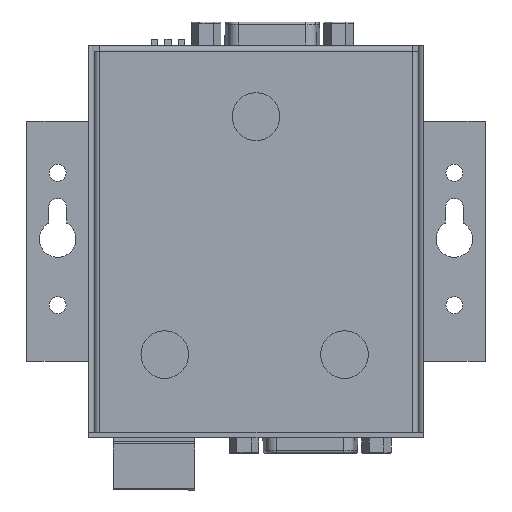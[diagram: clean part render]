
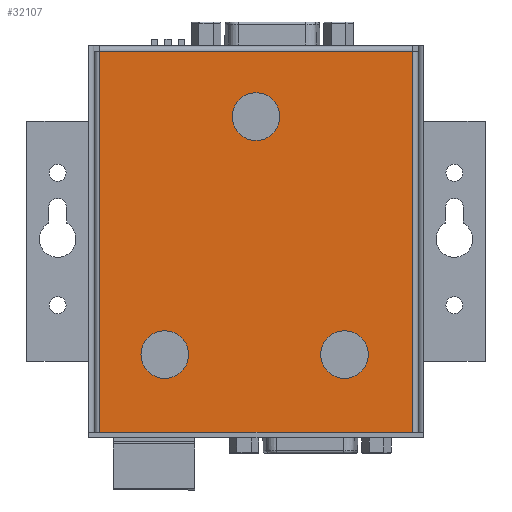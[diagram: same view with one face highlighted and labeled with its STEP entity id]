
A CAD part, front view. The second image highlights one B-rep face of the part: STEP entity #32107.
In plain terms, the highlighted planar face has unit normal (0, -1, 0).
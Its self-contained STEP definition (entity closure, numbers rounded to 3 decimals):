
#433=FACE_BOUND('',#5145,.T.);
#434=FACE_BOUND('',#5146,.T.);
#435=FACE_BOUND('',#5147,.T.);
#1432=PLANE('',#34823);
#3230=FACE_OUTER_BOUND('',#5144,.T.);
#5144=EDGE_LOOP('',(#27862,#27863,#27864,#27865));
#5145=EDGE_LOOP('',(#27866));
#5146=EDGE_LOOP('',(#27867));
#5147=EDGE_LOOP('',(#27868));
#6155=CIRCLE('',#34693,4.5);
#6204=CIRCLE('',#34824,4.5);
#6205=CIRCLE('',#34825,4.5);
#9128=LINE('',#55583,#12712);
#9129=LINE('',#55585,#12713);
#9130=LINE('',#55587,#12714);
#9131=LINE('',#55588,#12715);
#12712=VECTOR('',#42010,10.);
#12713=VECTOR('',#42011,10.);
#12714=VECTOR('',#42012,10.);
#12715=VECTOR('',#42013,10.);
#15743=VERTEX_POINT('',#53074);
#15908=VERTEX_POINT('',#55581);
#15909=VERTEX_POINT('',#55582);
#15910=VERTEX_POINT('',#55584);
#15911=VERTEX_POINT('',#55586);
#15912=VERTEX_POINT('',#55589);
#15913=VERTEX_POINT('',#55591);
#19832=EDGE_CURVE('',#15743,#15743,#6155,.T.);
#20077=EDGE_CURVE('',#15908,#15909,#9128,.T.);
#20078=EDGE_CURVE('',#15909,#15910,#9129,.T.);
#20079=EDGE_CURVE('',#15910,#15911,#9130,.T.);
#20080=EDGE_CURVE('',#15911,#15908,#9131,.T.);
#20081=EDGE_CURVE('',#15912,#15912,#6204,.T.);
#20082=EDGE_CURVE('',#15913,#15913,#6205,.T.);
#27862=ORIENTED_EDGE('',*,*,#20077,.T.);
#27863=ORIENTED_EDGE('',*,*,#20078,.T.);
#27864=ORIENTED_EDGE('',*,*,#20079,.T.);
#27865=ORIENTED_EDGE('',*,*,#20080,.T.);
#27866=ORIENTED_EDGE('',*,*,#20081,.T.);
#27867=ORIENTED_EDGE('',*,*,#19832,.T.);
#27868=ORIENTED_EDGE('',*,*,#20082,.T.);
#32107=ADVANCED_FACE('',(#3230,#433,#434,#435),#1432,.F.);
#34693=AXIS2_PLACEMENT_3D('',#53076,#41662,#41663);
#34823=AXIS2_PLACEMENT_3D('',#55580,#42008,#42009);
#34824=AXIS2_PLACEMENT_3D('',#55590,#42014,#42015);
#34825=AXIS2_PLACEMENT_3D('',#55592,#42016,#42017);
#41662=DIRECTION('center_axis',(0.,1.,0.));
#41663=DIRECTION('ref_axis',(1.,0.,0.));
#42008=DIRECTION('center_axis',(0.,1.,0.));
#42009=DIRECTION('ref_axis',(1.,0.,0.));
#42010=DIRECTION('',(0.,0.,1.));
#42011=DIRECTION('',(-1.,0.,0.));
#42012=DIRECTION('',(0.,0.,-1.));
#42013=DIRECTION('',(1.,0.,0.));
#42014=DIRECTION('center_axis',(0.,1.,0.));
#42015=DIRECTION('ref_axis',(1.,0.,0.));
#42016=DIRECTION('center_axis',(0.,1.,0.));
#42017=DIRECTION('ref_axis',(1.,0.,0.));
#53074=CARTESIAN_POINT('',(37.207,-5.51,-55.8));
#53076=CARTESIAN_POINT('Origin',(41.707,-5.51,-55.8));
#55580=CARTESIAN_POINT('Origin',(25.,-5.51,-34.));
#55581=CARTESIAN_POINT('',(54.605,-5.51,-70.49));
#55582=CARTESIAN_POINT('',(54.605,-5.51,1.48));
#55583=CARTESIAN_POINT('',(54.605,-5.51,-16.26));
#55584=CARTESIAN_POINT('',(-4.605,-5.51,1.48));
#55585=CARTESIAN_POINT('',(9.693,-5.51,1.48));
#55586=CARTESIAN_POINT('',(-4.605,-5.51,-70.49));
#55587=CARTESIAN_POINT('',(-4.605,-5.51,-52.245));
#55588=CARTESIAN_POINT('',(-5.615,-5.51,-70.49));
#55589=CARTESIAN_POINT('',(20.5,-5.51,-10.872));
#55590=CARTESIAN_POINT('Origin',(25.,-5.51,-10.872));
#55591=CARTESIAN_POINT('',(3.279,-5.51,-55.8));
#55592=CARTESIAN_POINT('Origin',(7.779,-5.51,-55.8));
